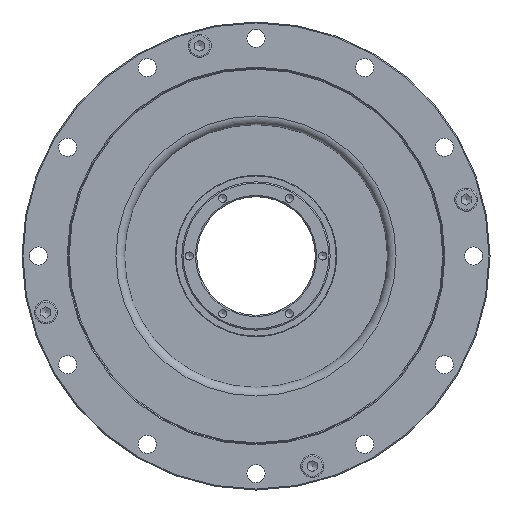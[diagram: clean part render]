
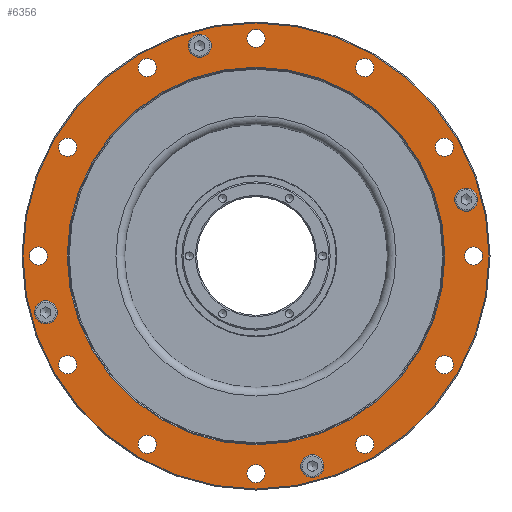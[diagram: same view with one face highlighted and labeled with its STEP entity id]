
A CAD part, left-side view. The second image highlights one B-rep face of the part: STEP entity #6356.
In plain terms, the highlighted planar face has unit normal (-1, 0, 0).
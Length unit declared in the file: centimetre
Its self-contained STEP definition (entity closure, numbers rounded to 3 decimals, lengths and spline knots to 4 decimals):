
#1416=FACE_BOUND($,#2078,.T.);
#1417=FACE_BOUND($,#2079,.T.);
#1418=FACE_BOUND($,#2080,.T.);
#1419=FACE_BOUND($,#2081,.T.);
#1420=FACE_BOUND($,#2082,.T.);
#1421=FACE_BOUND($,#2083,.T.);
#1422=FACE_BOUND($,#2084,.T.);
#1423=FACE_BOUND($,#2085,.T.);
#1424=FACE_BOUND($,#2086,.T.);
#1425=FACE_BOUND($,#2087,.T.);
#1426=FACE_BOUND($,#2088,.T.);
#1427=FACE_BOUND($,#2089,.T.);
#1428=FACE_BOUND($,#2090,.T.);
#1429=FACE_BOUND($,#2091,.T.);
#1430=FACE_BOUND($,#2092,.T.);
#1431=FACE_BOUND($,#2093,.T.);
#1432=FACE_BOUND($,#2094,.T.);
#1433=FACE_BOUND($,#2095,.T.);
#2078=EDGE_LOOP($,(#5620));
#2079=EDGE_LOOP($,(#5621));
#2080=EDGE_LOOP($,(#5622));
#2081=EDGE_LOOP($,(#5623));
#2082=EDGE_LOOP($,(#5624));
#2083=EDGE_LOOP($,(#5625));
#2084=EDGE_LOOP($,(#5626));
#2085=EDGE_LOOP($,(#5627));
#2086=EDGE_LOOP($,(#5628));
#2087=EDGE_LOOP($,(#5629));
#2088=EDGE_LOOP($,(#5630));
#2089=EDGE_LOOP($,(#5631));
#2090=EDGE_LOOP($,(#5632));
#2091=EDGE_LOOP($,(#5633));
#2092=EDGE_LOOP($,(#5634));
#2093=EDGE_LOOP($,(#5635));
#2094=EDGE_LOOP($,(#5636));
#2095=EDGE_LOOP($,(#5637));
#2483=CIRCLE($,#6877,0.35);
#2486=CIRCLE($,#6890,0.35);
#2676=CIRCLE($,#7315,0.275);
#2678=CIRCLE($,#7318,0.275);
#2680=CIRCLE($,#7321,0.275);
#2682=CIRCLE($,#7324,0.275);
#2684=CIRCLE($,#7327,0.275);
#2686=CIRCLE($,#7330,0.275);
#2688=CIRCLE($,#7333,0.275);
#2690=CIRCLE($,#7336,0.275);
#2692=CIRCLE($,#7339,0.275);
#2694=CIRCLE($,#7342,0.275);
#2696=CIRCLE($,#7345,0.275);
#2698=CIRCLE($,#7348,0.275);
#2706=CIRCLE($,#7363,5.73);
#2710=CIRCLE($,#7372,0.35);
#2711=CIRCLE($,#7373,0.35);
#2712=CIRCLE($,#7374,7.07);
#3013=VERTEX_POINT($,#10528);
#3028=VERTEX_POINT($,#10586);
#3202=VERTEX_POINT($,#11270);
#3204=VERTEX_POINT($,#11275);
#3206=VERTEX_POINT($,#11280);
#3208=VERTEX_POINT($,#11285);
#3210=VERTEX_POINT($,#11290);
#3212=VERTEX_POINT($,#11295);
#3214=VERTEX_POINT($,#11300);
#3216=VERTEX_POINT($,#11305);
#3218=VERTEX_POINT($,#11310);
#3220=VERTEX_POINT($,#11315);
#3222=VERTEX_POINT($,#11320);
#3224=VERTEX_POINT($,#11325);
#3232=VERTEX_POINT($,#11348);
#3236=VERTEX_POINT($,#11361);
#3237=VERTEX_POINT($,#11363);
#3238=VERTEX_POINT($,#11365);
#3724=EDGE_CURVE($,#3013,#3013,#2483,.T.);
#3745=EDGE_CURVE($,#3028,#3028,#2486,.T.);
#3984=EDGE_CURVE($,#3202,#3202,#2676,.T.);
#3986=EDGE_CURVE($,#3204,#3204,#2678,.T.);
#3988=EDGE_CURVE($,#3206,#3206,#2680,.T.);
#3990=EDGE_CURVE($,#3208,#3208,#2682,.T.);
#3992=EDGE_CURVE($,#3210,#3210,#2684,.T.);
#3994=EDGE_CURVE($,#3212,#3212,#2686,.T.);
#3996=EDGE_CURVE($,#3214,#3214,#2688,.T.);
#3998=EDGE_CURVE($,#3216,#3216,#2690,.T.);
#4000=EDGE_CURVE($,#3218,#3218,#2692,.T.);
#4002=EDGE_CURVE($,#3220,#3220,#2694,.T.);
#4004=EDGE_CURVE($,#3222,#3222,#2696,.T.);
#4006=EDGE_CURVE($,#3224,#3224,#2698,.T.);
#4014=EDGE_CURVE($,#3232,#3232,#2706,.T.);
#4018=EDGE_CURVE($,#3236,#3236,#2710,.T.);
#4019=EDGE_CURVE($,#3237,#3237,#2711,.T.);
#4020=EDGE_CURVE($,#3238,#3238,#2712,.T.);
#5620=ORIENTED_EDGE($,*,*,#4018,.T.);
#5621=ORIENTED_EDGE($,*,*,#3724,.T.);
#5622=ORIENTED_EDGE($,*,*,#4019,.T.);
#5623=ORIENTED_EDGE($,*,*,#3745,.T.);
#5624=ORIENTED_EDGE($,*,*,#4014,.F.);
#5625=ORIENTED_EDGE($,*,*,#3984,.T.);
#5626=ORIENTED_EDGE($,*,*,#3986,.T.);
#5627=ORIENTED_EDGE($,*,*,#3988,.T.);
#5628=ORIENTED_EDGE($,*,*,#3990,.T.);
#5629=ORIENTED_EDGE($,*,*,#3992,.T.);
#5630=ORIENTED_EDGE($,*,*,#3994,.T.);
#5631=ORIENTED_EDGE($,*,*,#3996,.T.);
#5632=ORIENTED_EDGE($,*,*,#3998,.T.);
#5633=ORIENTED_EDGE($,*,*,#4000,.T.);
#5634=ORIENTED_EDGE($,*,*,#4002,.T.);
#5635=ORIENTED_EDGE($,*,*,#4004,.T.);
#5636=ORIENTED_EDGE($,*,*,#4006,.T.);
#5637=ORIENTED_EDGE($,*,*,#4020,.F.);
#5916=PLANE($,#7371);
#6356=ADVANCED_FACE($,(#1416,#1417,#1418,#1419,#1420,#1421,#1422,#1423,
#1424,#1425,#1426,#1427,#1428,#1429,#1430,#1431,#1432,#1433),#5916,.T.);
#6877=AXIS2_PLACEMENT_3D($,#10529,#8475,#8476);
#6890=AXIS2_PLACEMENT_3D($,#10587,#8513,#8514);
#7315=AXIS2_PLACEMENT_3D($,#11271,#9394,#9395);
#7318=AXIS2_PLACEMENT_3D($,#11276,#9400,#9401);
#7321=AXIS2_PLACEMENT_3D($,#11281,#9406,#9407);
#7324=AXIS2_PLACEMENT_3D($,#11286,#9412,#9413);
#7327=AXIS2_PLACEMENT_3D($,#11291,#9418,#9419);
#7330=AXIS2_PLACEMENT_3D($,#11296,#9424,#9425);
#7333=AXIS2_PLACEMENT_3D($,#11301,#9430,#9431);
#7336=AXIS2_PLACEMENT_3D($,#11306,#9436,#9437);
#7339=AXIS2_PLACEMENT_3D($,#11311,#9442,#9443);
#7342=AXIS2_PLACEMENT_3D($,#11316,#9448,#9449);
#7345=AXIS2_PLACEMENT_3D($,#11321,#9454,#9455);
#7348=AXIS2_PLACEMENT_3D($,#11326,#9460,#9461);
#7363=AXIS2_PLACEMENT_3D($,#11349,#9490,#9491);
#7371=AXIS2_PLACEMENT_3D($,#11360,#9506,#9507);
#7372=AXIS2_PLACEMENT_3D($,#11362,#9508,#9509);
#7373=AXIS2_PLACEMENT_3D($,#11364,#9510,#9511);
#7374=AXIS2_PLACEMENT_3D($,#11366,#9512,#9513);
#8475=DIRECTION('center_axis',(1.,0.,0.));
#8476=DIRECTION('ref_axis',(0.,1.,0.));
#8513=DIRECTION('center_axis',(1.,0.,0.));
#8514=DIRECTION('ref_axis',(0.,1.,0.));
#9394=DIRECTION('center_axis',(1.,0.,0.));
#9395=DIRECTION('ref_axis',(0.,0.5,0.866));
#9400=DIRECTION('center_axis',(1.,0.,0.));
#9401=DIRECTION('ref_axis',(0.,0.866,0.5));
#9406=DIRECTION('center_axis',(1.,0.,0.));
#9407=DIRECTION('ref_axis',(0.,1.,0.));
#9412=DIRECTION('center_axis',(1.,0.,0.));
#9413=DIRECTION('ref_axis',(0.,0.866,-0.5));
#9418=DIRECTION('center_axis',(1.,0.,0.));
#9419=DIRECTION('ref_axis',(0.,0.5,-0.866));
#9424=DIRECTION('center_axis',(1.,0.,0.));
#9425=DIRECTION('ref_axis',(0.,0.,
-1.));
#9430=DIRECTION('center_axis',(1.,0.,0.));
#9431=DIRECTION('ref_axis',(0.,-0.5,-0.866));
#9436=DIRECTION('center_axis',(1.,0.,0.));
#9437=DIRECTION('ref_axis',(0.,-0.866,-0.5));
#9442=DIRECTION('center_axis',(1.,0.,0.));
#9443=DIRECTION('ref_axis',(0.,-1.,0.));
#9448=DIRECTION('center_axis',(1.,0.,0.));
#9449=DIRECTION('ref_axis',(0.,-0.866,0.5));
#9454=DIRECTION('center_axis',(1.,0.,0.));
#9455=DIRECTION('ref_axis',(0.,-0.5,0.866));
#9460=DIRECTION('center_axis',(1.,0.,0.));
#9461=DIRECTION('ref_axis',(0.,0.,
1.));
#9490=DIRECTION('center_axis',(-1.,0.,0.));
#9491=DIRECTION('ref_axis',(0.,-1.,0.));
#9506=DIRECTION('center_axis',(-1.,0.,0.));
#9507=DIRECTION('ref_axis',(0.,0.,1.));
#9508=DIRECTION('center_axis',(1.,0.,0.));
#9509=DIRECTION('ref_axis',(0.,1.,0.));
#9510=DIRECTION('center_axis',(1.,0.,0.));
#9511=DIRECTION('ref_axis',(0.,1.,0.));
#9512=DIRECTION('center_axis',(1.,0.,0.));
#9513=DIRECTION('ref_axis',(0.,-1.,0.));
#10528=CARTESIAN_POINT('',(-0.36,-6.0251,1.7082));
#10529=CARTESIAN_POINT('Origin',(-0.36,-6.3751,1.7082));
#10586=CARTESIAN_POINT('',(-0.36,2.0582,6.3751));
#10587=CARTESIAN_POINT('Origin',(-0.36,1.7082,6.3751));
#11270=CARTESIAN_POINT('',(-0.36,5.8533,-3.0618));
#11271=CARTESIAN_POINT('Origin',(-0.36,5.7158,-3.3));
#11275=CARTESIAN_POINT('',(-0.36,3.5382,-5.5783));
#11276=CARTESIAN_POINT('Origin',(-0.36,3.3,-5.7158));
#11280=CARTESIAN_POINT('',(-0.36,0.275,-6.6));
#11281=CARTESIAN_POINT('Origin',(-0.36,0.,
-6.6));
#11285=CARTESIAN_POINT('',(-0.36,-3.0618,-5.8533));
#11286=CARTESIAN_POINT('Origin',(-0.36,-3.3,-5.7158));
#11290=CARTESIAN_POINT('',(-0.36,-5.5783,-3.5382));
#11291=CARTESIAN_POINT('Origin',(-0.36,-5.7158,-3.3));
#11295=CARTESIAN_POINT('',(-0.36,-6.6,-0.275));
#11296=CARTESIAN_POINT('Origin',(-0.36,-6.6,0.));
#11300=CARTESIAN_POINT('',(-0.36,-5.8533,3.0618));
#11301=CARTESIAN_POINT('Origin',(-0.36,-5.7158,3.3));
#11305=CARTESIAN_POINT('',(-0.36,-3.5382,5.5783));
#11306=CARTESIAN_POINT('Origin',(-0.36,-3.3,5.7158));
#11310=CARTESIAN_POINT('',(-0.36,-0.275,6.6));
#11311=CARTESIAN_POINT('Origin',(-0.36,0.,
6.6));
#11315=CARTESIAN_POINT('',(-0.36,3.0618,5.8533));
#11316=CARTESIAN_POINT('Origin',(-0.36,3.3,5.7158));
#11320=CARTESIAN_POINT('',(-0.36,5.5783,3.5382));
#11321=CARTESIAN_POINT('Origin',(-0.36,5.7158,3.3));
#11325=CARTESIAN_POINT('',(-0.36,6.6,0.275));
#11326=CARTESIAN_POINT('Origin',(-0.36,6.6,0.));
#11348=CARTESIAN_POINT('',(-0.36,5.73,0.));
#11349=CARTESIAN_POINT('Origin',(-0.36,0.,
0.));
#11360=CARTESIAN_POINT('Origin',(-0.36,7.1,0.));
#11361=CARTESIAN_POINT('',(-0.36,6.7251,-1.7082));
#11362=CARTESIAN_POINT('Origin',(-0.36,6.3751,-1.7082));
#11363=CARTESIAN_POINT('',(-0.36,-1.3582,-6.3751));
#11364=CARTESIAN_POINT('Origin',(-0.36,-1.7082,-6.3751));
#11365=CARTESIAN_POINT('',(-0.36,7.07,0.));
#11366=CARTESIAN_POINT('Origin',(-0.36,0.,
0.));
